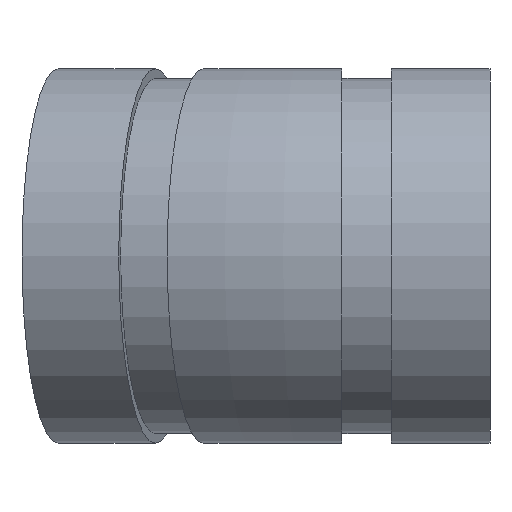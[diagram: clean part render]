
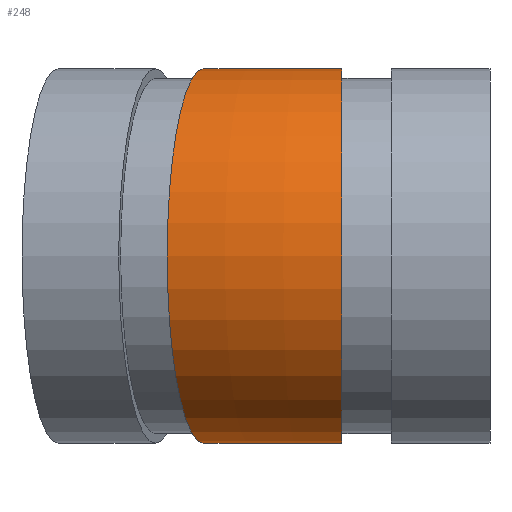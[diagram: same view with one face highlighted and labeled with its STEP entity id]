
A CAD part, left-side view. The second image highlights one B-rep face of the part: STEP entity #248.
In plain terms, the highlighted toroidal (fillet/blend) face has major radius 113.988 mm and minor radius 30.163 mm.
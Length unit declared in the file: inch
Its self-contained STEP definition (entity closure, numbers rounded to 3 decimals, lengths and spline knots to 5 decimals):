
#15=TOROIDAL_SURFACE('',#303,4.4877,1.1875);
#47=FACE_OUTER_BOUND('',#65,.T.);
#65=EDGE_LOOP('',(#190,#191,#192,#193,#194,#195));
#79=CIRCLE('',#283,1.1875);
#80=CIRCLE('',#284,1.1875);
#86=CIRCLE('',#293,1.1875);
#87=CIRCLE('',#294,1.1875);
#95=CIRCLE('',#304,3.3002);
#105=VERTEX_POINT('',#418);
#106=VERTEX_POINT('',#419);
#112=VERTEX_POINT('',#436);
#113=VERTEX_POINT('',#437);
#130=EDGE_CURVE('',#105,#106,#79,.T.);
#131=EDGE_CURVE('',#106,#105,#80,.T.);
#138=EDGE_CURVE('',#112,#113,#86,.T.);
#139=EDGE_CURVE('',#113,#112,#87,.T.);
#147=EDGE_CURVE('',#113,#106,#95,.T.);
#190=ORIENTED_EDGE('',*,*,#138,.T.);
#191=ORIENTED_EDGE('',*,*,#147,.T.);
#192=ORIENTED_EDGE('',*,*,#131,.T.);
#193=ORIENTED_EDGE('',*,*,#130,.T.);
#194=ORIENTED_EDGE('',*,*,#147,.F.);
#195=ORIENTED_EDGE('',*,*,#139,.T.);
#248=ADVANCED_FACE('',(#47),#15,.T.);
#283=AXIS2_PLACEMENT_3D('',#420,#334,#335);
#284=AXIS2_PLACEMENT_3D('',#421,#336,#337);
#293=AXIS2_PLACEMENT_3D('',#438,#355,#356);
#294=AXIS2_PLACEMENT_3D('',#439,#357,#358);
#303=AXIS2_PLACEMENT_3D('',#454,#375,#376);
#304=AXIS2_PLACEMENT_3D('',#455,#377,#378);
#334=DIRECTION('center_axis',(0.,1.,0.));
#335=DIRECTION('ref_axis',(1.,0.,0.));
#336=DIRECTION('center_axis',(0.,1.,0.));
#337=DIRECTION('ref_axis',(1.,0.,0.));
#355=DIRECTION('center_axis',(-0.195,-0.981,0.));
#356=DIRECTION('ref_axis',(0.981,-0.195,0.));
#357=DIRECTION('center_axis',(-0.195,-0.981,0.));
#358=DIRECTION('ref_axis',(0.981,-0.195,0.));
#375=DIRECTION('center_axis',(0.,0.,-1.));
#376=DIRECTION('ref_axis',(-1.,0.,0.));
#377=DIRECTION('center_axis',(0.,0.,1.));
#378=DIRECTION('ref_axis',(-1.,0.,0.));
#418=CARTESIAN_POINT('',(0.,0.938,1.1875));
#419=CARTESIAN_POINT('',(1.1875,0.938,0.));
#420=CARTESIAN_POINT('Origin',(0.,0.938,0.));
#421=CARTESIAN_POINT('Origin',(0.,0.938,0.));
#436=CARTESIAN_POINT('',(0.08623,1.81351,1.1875));
#437=CARTESIAN_POINT('',(1.25091,1.58184,0.));
#438=CARTESIAN_POINT('Origin',(0.08623,1.81351,0.));
#439=CARTESIAN_POINT('Origin',(0.08623,1.81351,0.));
#454=CARTESIAN_POINT('Origin',(4.4877,0.938,0.));
#455=CARTESIAN_POINT('Origin',(4.4877,0.938,0.));
